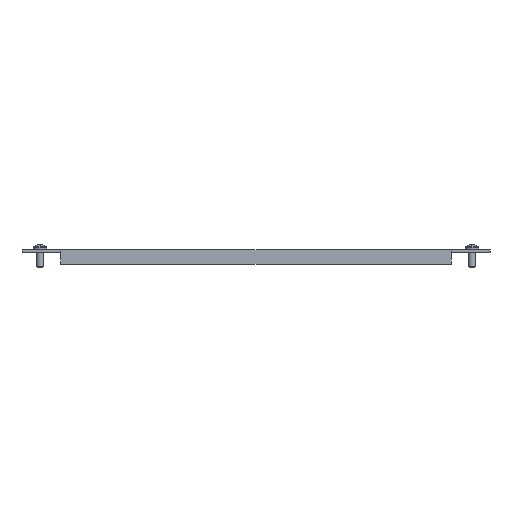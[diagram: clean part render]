
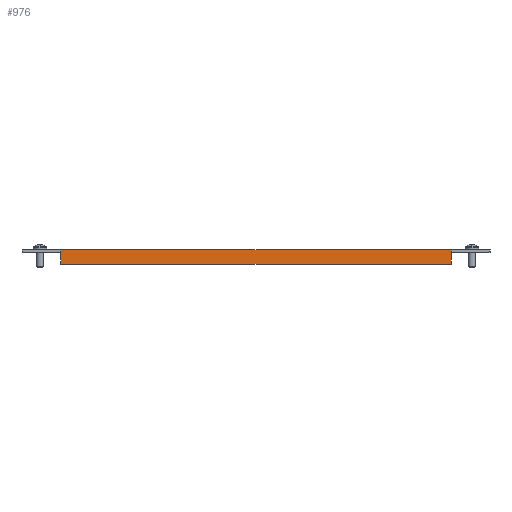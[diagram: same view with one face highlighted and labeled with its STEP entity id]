
A CAD part, front view. The second image highlights one B-rep face of the part: STEP entity #976.
In plain terms, the highlighted planar face has unit normal (0, -1, 0).
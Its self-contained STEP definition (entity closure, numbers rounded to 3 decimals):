
#55 = DIRECTION ( 'NONE',  ( -1., 0., 0. ) ) ;
#59 = ORIENTED_EDGE ( 'NONE', *, *, #2767, .F. ) ;
#105 = ORIENTED_EDGE ( 'NONE', *, *, #1986, .T. ) ;
#112 = CARTESIAN_POINT ( 'NONE',  ( 135.5, -99., -10. ) ) ;
#234 = CARTESIAN_POINT ( 'NONE',  ( 135.5, -99., -2.4 ) ) ;
#433 = ORIENTED_EDGE ( 'NONE', *, *, #1280, .F. ) ;
#494 = VERTEX_POINT ( 'NONE', #112 ) ;
#497 = PLANE ( 'NONE',  #1239 ) ;
#690 = LINE ( 'NONE', #2981, #794 ) ;
#727 = CARTESIAN_POINT ( 'NONE',  ( 0., -99., 0. ) ) ;
#754 = VECTOR ( 'NONE', #1106, 1000. ) ;
#794 = VECTOR ( 'NONE', #2818, 1000. ) ;
#900 = LINE ( 'NONE', #2781, #1304 ) ;
#954 = ORIENTED_EDGE ( 'NONE', *, *, #2702, .F. ) ;
#976 = ADVANCED_FACE ( 'NONE', ( #1913 ), #497, .T. ) ;
#1020 = DIRECTION ( 'NONE',  ( 0., 0., 1. ) ) ;
#1106 = DIRECTION ( 'NONE',  ( 0., 0., -1. ) ) ;
#1232 = LINE ( 'NONE', #1940, #2782 ) ;
#1239 = AXIS2_PLACEMENT_3D ( 'NONE', #727, #1437, #2783 ) ;
#1276 = VERTEX_POINT ( 'NONE', #2793 ) ;
#1280 = EDGE_CURVE ( 'NONE', #494, #2502, #690, .T. ) ;
#1304 = VECTOR ( 'NONE', #1348, 1000. ) ;
#1329 = CARTESIAN_POINT ( 'NONE',  ( 135.5, -99., 0. ) ) ;
#1348 = DIRECTION ( 'NONE',  ( 0., 0., 1. ) ) ;
#1437 = DIRECTION ( 'NONE',  ( 0., -1., 0. ) ) ;
#1592 = EDGE_LOOP ( 'NONE', ( #59, #2753, #105, #954, #1973, #433 ) ) ;
#1624 = DIRECTION ( 'NONE',  ( 0., 0., 1. ) ) ;
#1753 = CARTESIAN_POINT ( 'NONE',  ( -135.5, -99., -10. ) ) ;
#1758 = LINE ( 'NONE', #2422, #2136 ) ;
#1798 = VECTOR ( 'NONE', #1624, 1000. ) ;
#1913 = FACE_OUTER_BOUND ( 'NONE', #1592, .T. ) ;
#1940 = CARTESIAN_POINT ( 'NONE',  ( -135.5, -99., -1.8 ) ) ;
#1973 = ORIENTED_EDGE ( 'NONE', *, *, #3017, .F. ) ;
#1986 = EDGE_CURVE ( 'NONE', #2736, #2931, #1758, .T. ) ;
#2029 = LINE ( 'NONE', #2073, #754 ) ;
#2069 = VERTEX_POINT ( 'NONE', #2404 ) ;
#2073 = CARTESIAN_POINT ( 'NONE',  ( 135.5, -99., -10. ) ) ;
#2136 = VECTOR ( 'NONE', #55, 1000. ) ;
#2404 = CARTESIAN_POINT ( 'NONE',  ( -135.5, -99., -2.4 ) ) ;
#2422 = CARTESIAN_POINT ( 'NONE',  ( 0., -99., 0. ) ) ;
#2502 = VERTEX_POINT ( 'NONE', #1753 ) ;
#2702 = EDGE_CURVE ( 'NONE', #2069, #2931, #900, .T. ) ;
#2736 = VERTEX_POINT ( 'NONE', #1329 ) ;
#2753 = ORIENTED_EDGE ( 'NONE', *, *, #2859, .T. ) ;
#2767 = EDGE_CURVE ( 'NONE', #1276, #494, #2029, .T. ) ;
#2781 = CARTESIAN_POINT ( 'NONE',  ( -135.5, -99., 0. ) ) ;
#2782 = VECTOR ( 'NONE', #1020, 1000. ) ;
#2783 = DIRECTION ( 'NONE',  ( 0., 0., -1. ) ) ;
#2793 = CARTESIAN_POINT ( 'NONE',  ( 135.5, -99., -2.4 ) ) ;
#2818 = DIRECTION ( 'NONE',  ( -1., 0., 0. ) ) ;
#2851 = LINE ( 'NONE', #234, #1798 ) ;
#2859 = EDGE_CURVE ( 'NONE', #1276, #2736, #2851, .T. ) ;
#2931 = VERTEX_POINT ( 'NONE', #3049 ) ;
#2981 = CARTESIAN_POINT ( 'NONE',  ( -135.5, -99., -10. ) ) ;
#3017 = EDGE_CURVE ( 'NONE', #2502, #2069, #1232, .T. ) ;
#3049 = CARTESIAN_POINT ( 'NONE',  ( -135.5, -99., 0. ) ) ;
